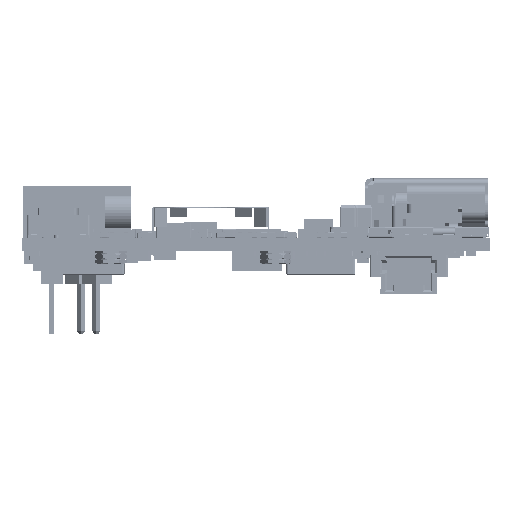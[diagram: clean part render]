
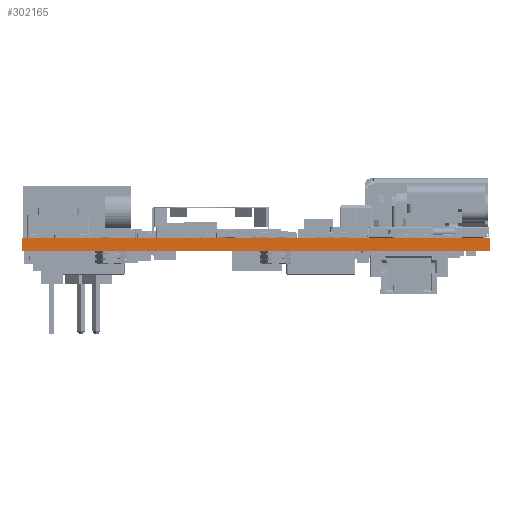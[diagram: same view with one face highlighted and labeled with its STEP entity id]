
A CAD part, left-side view. The second image highlights one B-rep face of the part: STEP entity #302165.
In plain terms, the highlighted planar face has unit normal (-1, 0, 0).
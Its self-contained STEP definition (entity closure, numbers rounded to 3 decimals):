
#34=DIRECTION('',(0.,-1.,0.));
#35=VECTOR('',#34,54.);
#36=CARTESIAN_POINT('',(0.,54.,-1.5));
#37=LINE('',#36,#35);
#17142=DIRECTION('',(0.,0.,1.));
#17143=VECTOR('',#17142,1.5);
#17144=CARTESIAN_POINT('',(0.,0.,-1.5));
#17145=LINE('',#17144,#17143);
#17146=DIRECTION('',(0.,-1.,0.));
#17147=VECTOR('',#17146,54.);
#17148=CARTESIAN_POINT('',(0.,54.,0.));
#17149=LINE('',#17148,#17147);
#17150=DIRECTION('',(0.,0.,1.));
#17151=VECTOR('',#17150,1.5);
#17152=CARTESIAN_POINT('',(0.,54.,-1.5));
#17153=LINE('',#17152,#17151);
#227199=CARTESIAN_POINT('',(0.,54.,0.));
#227201=VERTEX_POINT('',#227199);
#227204=CARTESIAN_POINT('',(0.,0.,0.));
#227205=VERTEX_POINT('',#227204);
#227248=CARTESIAN_POINT('',(0.,54.,-1.5));
#227249=VERTEX_POINT('',#227248);
#227250=CARTESIAN_POINT('',(0.,0.,-1.5));
#227251=VERTEX_POINT('',#227250);
#302154=CARTESIAN_POINT('',(0.,27.,-0.75));
#302155=DIRECTION('',(1.,0.,0.));
#302156=DIRECTION('',(0.,-1.,0.));
#302157=AXIS2_PLACEMENT_3D('',#302154,#302155,#302156);
#302158=PLANE('',#302157);
#302159=ORIENTED_EDGE('',*,*,#296813,.T.);
#302160=ORIENTED_EDGE('',*,*,#302149,.F.);
#302161=ORIENTED_EDGE('',*,*,#291658,.F.);
#302162=ORIENTED_EDGE('',*,*,#296795,.T.);
#302163=EDGE_LOOP('',(#302159,#302160,#302161,#302162));
#302164=FACE_OUTER_BOUND('',#302163,.F.);
#302165=ADVANCED_FACE('',(#302164),#302158,.F.);
#291658=EDGE_CURVE('',#227249,#227251,#37,.T.);
#296795=EDGE_CURVE('',#227249,#227201,#17153,.T.);
#296813=EDGE_CURVE('',#227201,#227205,#17149,.T.);
#302149=EDGE_CURVE('',#227251,#227205,#17145,.T.);
